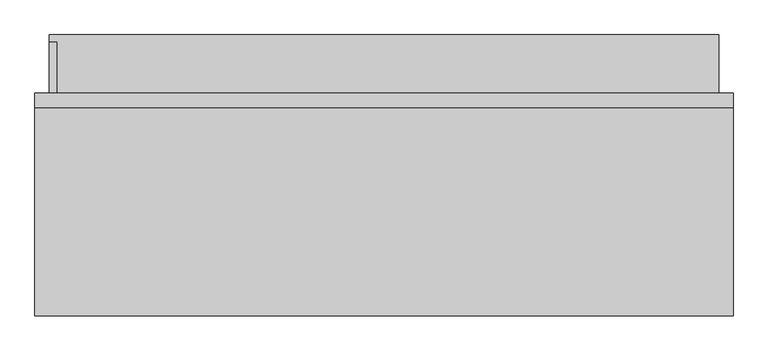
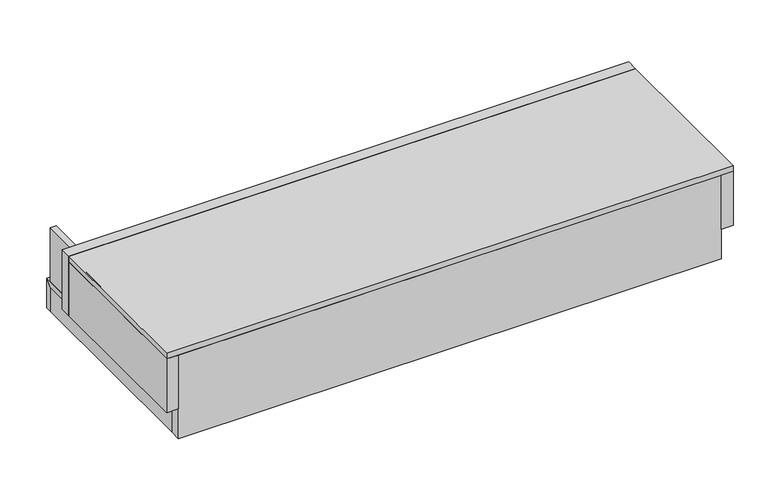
"""IFC4 building model written with IfcOpenShell, lengths in millimetres: proxy geometry, FOUNDATION^OPEN OFFICE 3_12x29x72 WIRE WALL-PARTS SOLID."""

from ifc_helpers import new_model, si_unit, frame, origin, origin_with_axes, place, context, project, spatial, polyline, outline, extrude, source, transform, mapped, element, save


def generic_models_7dc40182(model_context):
    return source(origin(), model_context, "Body", "SweptSolid", [
        extrude(outline(polyline([(0.0, 546.1), (0.0, 0.0), (-38.1, 0.0), (-38.1, 546.1), (0.0, 546.1)])), frame((0.0, 0.0, 101.6), z_axis=(0.0, 0.0, 1.0), x_axis=(1.0, 0.0, 0.0)), (0.0, 0.0, 1.0), 184.15),
        extrude(outline(polyline([(546.1, 101.6), (736.6, 101.6), (717.55, 82.55), (546.1, 82.55), (546.1, 101.6)])), frame((0.0, 0.0, 0.0), z_axis=(1.0, 0.0, 0.0), x_axis=(0.0, 1.0, 0.0)), (0.0, 0.0, 1.0), 1752.6),
        extrude(outline(polyline([(1752.6, 0.0), (1752.6, 546.1), (1790.7, 546.1), (1790.7, 0.0), (1752.6, 0.0)])), frame((0.0, 0.0, 101.6), z_axis=(0.0, 0.0, 1.0), x_axis=(1.0, 0.0, 0.0)), (0.0, 0.0, 1.0), 184.15),
        extrude(outline(polyline([(1790.7, 546.1), (-38.1, 546.1), (-38.1, 584.2), (1790.7, 584.2), (1790.7, 546.1)])), frame((0.0, 0.0, 101.6), z_axis=(0.0, 0.0, 1.0), x_axis=(1.0, 0.0, 0.0)), (0.0, 0.0, 1.0), 203.2),
        extrude(outline(polyline([(717.55, 82.55), (736.6, 101.6), (736.6, 0.0), (717.55, 0.0), (717.55, 82.55)])), frame((0.0, 0.0, 0.0), z_axis=(1.0, 0.0, 0.0), x_axis=(0.0, 1.0, 0.0)), (0.0, 0.0, 1.0), 1752.6),
        extrude(outline(polyline([(-38.1, 546.1), (1790.7, 546.1), (1790.7, 0.0), (-38.1, 0.0), (-38.1, 546.1)])), frame((0.0, 0.0, 285.75), z_axis=(0.0, 0.0, 1.0), x_axis=(1.0, 0.0, 0.0)), (0.0, 0.0, 1.0), 19.05),
        extrude(outline(polyline([(1280.31875, 542.925), (1280.31875, 373.85625), (-35.71875, 373.85625), (-35.71875, 542.925), (1280.31875, 542.925)])), frame((0.0, 0.0, 285.75), z_axis=(0.0, 0.0, 1.0), x_axis=(1.0, 0.0, 0.0)), (0.0, 0.0, 1.0), 19.05),
        extrude(outline(polyline([(0.0, 38.1), (0.0, 717.55), (19.05, 717.55), (19.05, 38.1), (0.0, 38.1)])), origin_with_axes(), (0.0, 0.0, 1.0), 285.75),
        extrude(outline(polyline([(0.0, 0.0), (0.0, 38.1), (1752.6, 38.1), (1752.6, 0.0), (0.0, 0.0)])), origin_with_axes(), (0.0, 0.0, 1.0), 285.75),
    ])


if __name__ == "__main__":
    model = new_model("IFC4")
    model_context = context("Model", 3, world=origin())
    ifc_project = project(units=[si_unit("LENGTHUNIT", "METRE", prefix="MILLI")], contexts=[model_context])
    site = spatial("IfcSite", under=ifc_project)
    building = spatial("IfcBuilding", under=site)
    placement = place(None, origin())
    generic_models_shape = generic_models_7dc40182(model_context)
    element("IfcBuildingElementProxy", 1, Name="FOUNDATION^OPEN OFFICE 3_12x29x72 WIRE WALL-PARTS SOLID", ObjectType="FOUNDATION^OPEN OFFICE 3_12x29x72 WIRE WALL-PARTS SOLID", at=placement, inside=building, context=model_context, shape_type="MappedRepresentation", body=[
        mapped(generic_models_shape, transform((0.0, 0.0, 0.0), x_axis=(1.0, 0.0, 0.0), y_axis=(0.0, 1.0, 0.0), z_axis=(0.0, 0.0, 1.0))),
    ])
    save(model, "model.ifc")
